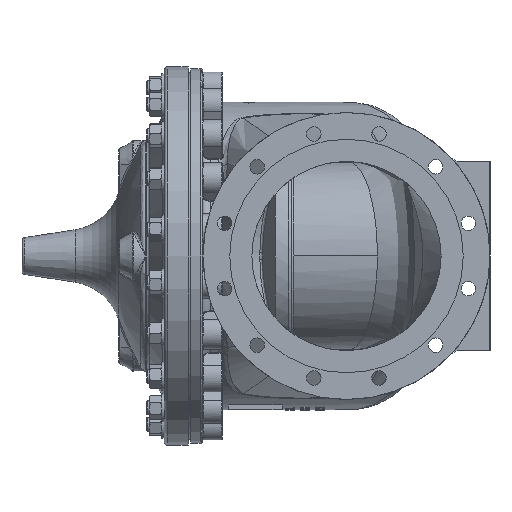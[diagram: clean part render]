
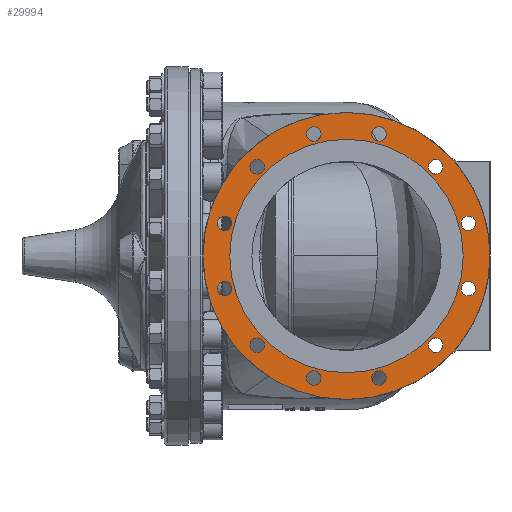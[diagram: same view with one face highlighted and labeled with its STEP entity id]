
A CAD part, left-side view. The second image highlights one B-rep face of the part: STEP entity #29994.
In plain terms, the highlighted planar face has unit normal (-1, 0, 0).
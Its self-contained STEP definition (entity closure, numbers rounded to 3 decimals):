
#1648=FACE_BOUND('',#5450,.T.);
#1649=FACE_BOUND('',#5451,.T.);
#1650=FACE_BOUND('',#5452,.T.);
#1651=FACE_BOUND('',#5453,.T.);
#1652=FACE_BOUND('',#5454,.T.);
#1653=FACE_BOUND('',#5455,.T.);
#1654=FACE_BOUND('',#5456,.T.);
#1655=FACE_BOUND('',#5457,.T.);
#1656=FACE_BOUND('',#5458,.T.);
#1657=FACE_BOUND('',#5459,.T.);
#1658=FACE_BOUND('',#5460,.T.);
#1659=FACE_BOUND('',#5461,.T.);
#1660=FACE_BOUND('',#5462,.T.);
#2089=PLANE('',#33022);
#3426=FACE_OUTER_BOUND('',#5449,.T.);
#5449=EDGE_LOOP('',(#24795));
#5450=EDGE_LOOP('',(#24796));
#5451=EDGE_LOOP('',(#24797));
#5452=EDGE_LOOP('',(#24798));
#5453=EDGE_LOOP('',(#24799));
#5454=EDGE_LOOP('',(#24800));
#5455=EDGE_LOOP('',(#24801));
#5456=EDGE_LOOP('',(#24802));
#5457=EDGE_LOOP('',(#24803));
#5458=EDGE_LOOP('',(#24804));
#5459=EDGE_LOOP('',(#24805));
#5460=EDGE_LOOP('',(#24806));
#5461=EDGE_LOOP('',(#24807));
#5462=EDGE_LOOP('',(#24808));
#6817=CIRCLE('',#31721,11.5);
#6819=CIRCLE('',#31724,11.5);
#6821=CIRCLE('',#31727,11.5);
#6823=CIRCLE('',#31730,11.5);
#6825=CIRCLE('',#31733,11.5);
#6827=CIRCLE('',#31736,11.5);
#6829=CIRCLE('',#31739,11.5);
#6831=CIRCLE('',#31742,11.5);
#6833=CIRCLE('',#31745,11.5);
#6835=CIRCLE('',#31748,11.5);
#6837=CIRCLE('',#31751,11.5);
#6839=CIRCLE('',#31754,11.5);
#7515=CIRCLE('',#33011,227.5);
#7517=CIRCLE('',#33020,185.);
#12350=VERTEX_POINT('',#46987);
#12352=VERTEX_POINT('',#46993);
#12354=VERTEX_POINT('',#46999);
#12356=VERTEX_POINT('',#47005);
#12358=VERTEX_POINT('',#47011);
#12360=VERTEX_POINT('',#47017);
#12362=VERTEX_POINT('',#47023);
#12364=VERTEX_POINT('',#47029);
#12366=VERTEX_POINT('',#47035);
#12368=VERTEX_POINT('',#47041);
#12370=VERTEX_POINT('',#47047);
#12372=VERTEX_POINT('',#47053);
#13533=VERTEX_POINT('',#62554);
#13535=VERTEX_POINT('',#62568);
#15605=EDGE_CURVE('',#12350,#12350,#6817,.T.);
#15608=EDGE_CURVE('',#12352,#12352,#6819,.T.);
#15611=EDGE_CURVE('',#12354,#12354,#6821,.T.);
#15614=EDGE_CURVE('',#12356,#12356,#6823,.T.);
#15617=EDGE_CURVE('',#12358,#12358,#6825,.T.);
#15620=EDGE_CURVE('',#12360,#12360,#6827,.T.);
#15623=EDGE_CURVE('',#12362,#12362,#6829,.T.);
#15626=EDGE_CURVE('',#12364,#12364,#6831,.T.);
#15629=EDGE_CURVE('',#12366,#12366,#6833,.T.);
#15632=EDGE_CURVE('',#12368,#12368,#6835,.T.);
#15635=EDGE_CURVE('',#12370,#12370,#6837,.T.);
#15638=EDGE_CURVE('',#12372,#12372,#6839,.T.);
#17498=EDGE_CURVE('',#13533,#13533,#7515,.T.);
#17502=EDGE_CURVE('',#13535,#13535,#7517,.T.);
#24795=ORIENTED_EDGE('',*,*,#17498,.F.);
#24796=ORIENTED_EDGE('',*,*,#15605,.T.);
#24797=ORIENTED_EDGE('',*,*,#15608,.T.);
#24798=ORIENTED_EDGE('',*,*,#15611,.T.);
#24799=ORIENTED_EDGE('',*,*,#15614,.T.);
#24800=ORIENTED_EDGE('',*,*,#15617,.T.);
#24801=ORIENTED_EDGE('',*,*,#15620,.T.);
#24802=ORIENTED_EDGE('',*,*,#15623,.T.);
#24803=ORIENTED_EDGE('',*,*,#15626,.T.);
#24804=ORIENTED_EDGE('',*,*,#15629,.T.);
#24805=ORIENTED_EDGE('',*,*,#15632,.T.);
#24806=ORIENTED_EDGE('',*,*,#15635,.T.);
#24807=ORIENTED_EDGE('',*,*,#15638,.T.);
#24808=ORIENTED_EDGE('',*,*,#17502,.F.);
#29994=ADVANCED_FACE('',(#3426,#1648,#1649,#1650,#1651,#1652,#1653,#1654,
#1655,#1656,#1657,#1658,#1659,#1660),#2089,.F.);
#31721=AXIS2_PLACEMENT_3D('',#46988,#36395,#36396);
#31724=AXIS2_PLACEMENT_3D('',#46994,#36402,#36403);
#31727=AXIS2_PLACEMENT_3D('',#47000,#36409,#36410);
#31730=AXIS2_PLACEMENT_3D('',#47006,#36416,#36417);
#31733=AXIS2_PLACEMENT_3D('',#47012,#36423,#36424);
#31736=AXIS2_PLACEMENT_3D('',#47018,#36430,#36431);
#31739=AXIS2_PLACEMENT_3D('',#47024,#36437,#36438);
#31742=AXIS2_PLACEMENT_3D('',#47030,#36444,#36445);
#31745=AXIS2_PLACEMENT_3D('',#47036,#36451,#36452);
#31748=AXIS2_PLACEMENT_3D('',#47042,#36458,#36459);
#31751=AXIS2_PLACEMENT_3D('',#47048,#36465,#36466);
#31754=AXIS2_PLACEMENT_3D('',#47054,#36472,#36473);
#33011=AXIS2_PLACEMENT_3D('',#62556,#39603,#39604);
#33020=AXIS2_PLACEMENT_3D('',#62569,#39623,#39624);
#33022=AXIS2_PLACEMENT_3D('',#62573,#39628,#39629);
#36395=DIRECTION('center_axis',(1.,0.,0.));
#36396=DIRECTION('ref_axis',(0.,0.5,0.866));
#36402=DIRECTION('center_axis',(1.,0.,0.));
#36403=DIRECTION('ref_axis',(0.,0.866,0.5));
#36409=DIRECTION('center_axis',(1.,0.,0.));
#36410=DIRECTION('ref_axis',(0.,1.,0.));
#36416=DIRECTION('center_axis',(1.,0.,0.));
#36417=DIRECTION('ref_axis',(0.,0.866,-0.5));
#36423=DIRECTION('center_axis',(1.,0.,0.));
#36424=DIRECTION('ref_axis',(0.,0.5,-0.866));
#36430=DIRECTION('center_axis',(1.,0.,0.));
#36431=DIRECTION('ref_axis',(0.,0.,
-1.));
#36437=DIRECTION('center_axis',(1.,0.,0.));
#36438=DIRECTION('ref_axis',(0.,-0.5,-0.866));
#36444=DIRECTION('center_axis',(1.,0.,0.));
#36445=DIRECTION('ref_axis',(0.,-0.866,-0.5));
#36451=DIRECTION('center_axis',(1.,0.,0.));
#36452=DIRECTION('ref_axis',(0.,-1.,0.));
#36458=DIRECTION('center_axis',(1.,0.,0.));
#36459=DIRECTION('ref_axis',(0.,-0.866,0.5));
#36465=DIRECTION('center_axis',(1.,0.,0.));
#36466=DIRECTION('ref_axis',(0.,-0.5,0.866));
#36472=DIRECTION('center_axis',(1.,0.,0.));
#36473=DIRECTION('ref_axis',(0.,0.,
1.));
#39603=DIRECTION('center_axis',(1.,0.,0.));
#39604=DIRECTION('ref_axis',(0.,0.,
-1.));
#39623=DIRECTION('center_axis',(-1.,0.,0.));
#39624=DIRECTION('ref_axis',(0.,0.,
-1.));
#39628=DIRECTION('center_axis',(1.,0.,0.));
#39629=DIRECTION('ref_axis',(0.,0.,
-1.));
#46987=CARTESIAN_POINT('',(-421.,-378.606,131.462));
#46988=CARTESIAN_POINT('Origin',(-421.,-372.856,141.421));
#46993=CARTESIAN_POINT('',(-421.,-331.051,46.014));
#46994=CARTESIAN_POINT('Origin',(-421.,-321.092,51.764));
#46999=CARTESIAN_POINT('',(-421.,-332.592,-51.764));
#47000=CARTESIAN_POINT('Origin',(-421.,-321.092,-51.764));
#47005=CARTESIAN_POINT('',(-421.,-382.815,-135.671));
#47006=CARTESIAN_POINT('Origin',(-421.,-372.856,-141.421));
#47011=CARTESIAN_POINT('',(-421.,-468.263,-183.226));
#47012=CARTESIAN_POINT('Origin',(-421.,-462.513,-193.185));
#47017=CARTESIAN_POINT('',(-421.,-566.041,-181.685));
#47018=CARTESIAN_POINT('Origin',(-421.,-566.041,-193.185));
#47023=CARTESIAN_POINT('',(-421.,-649.948,-131.462));
#47024=CARTESIAN_POINT('Origin',(-421.,-655.698,-141.421));
#47029=CARTESIAN_POINT('',(-421.,-697.503,-46.014));
#47030=CARTESIAN_POINT('Origin',(-421.,-707.462,-51.764));
#47035=CARTESIAN_POINT('',(-421.,-695.962,51.764));
#47036=CARTESIAN_POINT('Origin',(-421.,-707.462,51.764));
#47041=CARTESIAN_POINT('',(-421.,-645.739,135.671));
#47042=CARTESIAN_POINT('Origin',(-421.,-655.698,141.421));
#47047=CARTESIAN_POINT('',(-421.,-560.291,183.226));
#47048=CARTESIAN_POINT('Origin',(-421.,-566.041,193.185));
#47053=CARTESIAN_POINT('',(-421.,-462.513,181.685));
#47054=CARTESIAN_POINT('Origin',(-421.,-462.513,193.185));
#62554=CARTESIAN_POINT('',(-421.,-514.277,227.5));
#62556=CARTESIAN_POINT('Origin',(-421.,-514.277,0.));
#62568=CARTESIAN_POINT('',(-421.,-514.277,185.));
#62569=CARTESIAN_POINT('Origin',(-421.,-514.277,0.));
#62573=CARTESIAN_POINT('Origin',(-421.,-514.277,0.));
